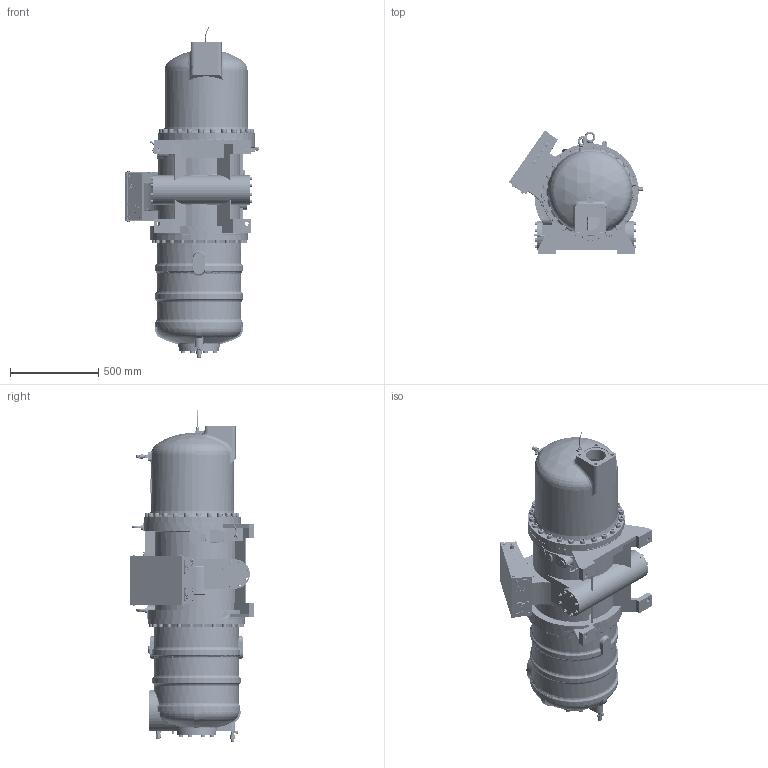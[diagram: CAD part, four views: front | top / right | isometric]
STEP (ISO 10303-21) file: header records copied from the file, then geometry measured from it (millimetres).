
FILE_DESCRIPTION (( 'STEP AP203' ), '1' );
FILE_NAME ('RC2-830BF outline.STEP', '2014-12-26T06:32:21', ( 'jameswang' ), ( '' ), 'SwSTEP 2.0', 'SolidWorks 2013', '' );
FILE_SCHEMA (( 'CONFIG_CONTROL_DESIGN' ));
Length unit declared in the file: centimetre
Products named in the file (1): RC2-830BF outline
Bounding box: 762.01 x 700.45 x 1880.94 mm (x, y, z)
Surface area: 5895985.9 mm2 (no closed solid volume)
Topology: 0 solids, 316 shells, 2861 faces, 10725 edges, 8006 vertices
Faces by surface type: plane 1373, cylinder 856, torus 393, bspline 137, cone 80, sphere 22
Entity records: 147127 total; most frequent: CARTESIAN_POINT 56658, DIRECTION 19474, ORIENTED_EDGE 16112, EDGE_CURVE 10712, VERTEX_POINT 8000, AXIS2_PLACEMENT_3D 7275, VECTOR 4924, LINE 4924
